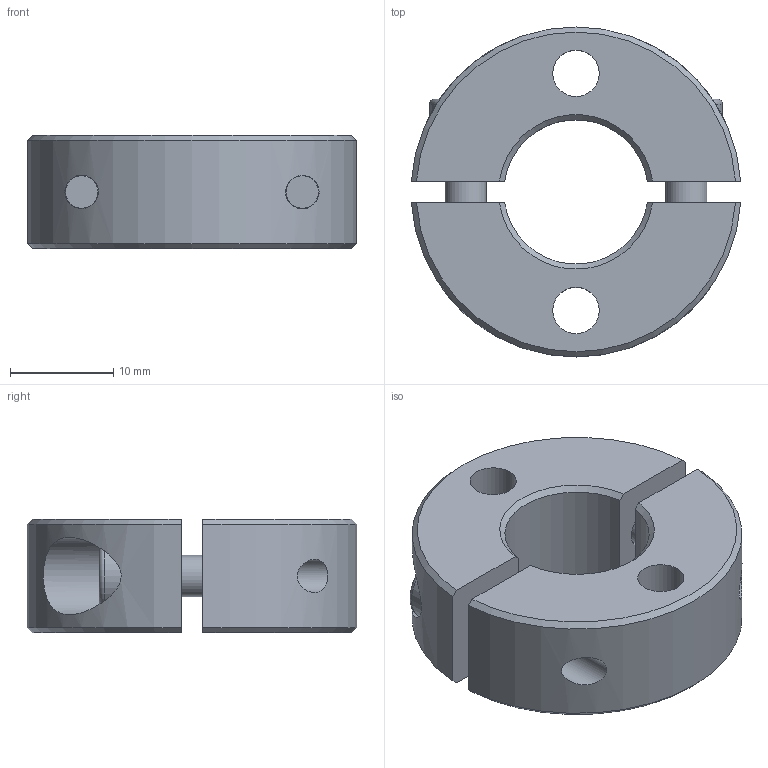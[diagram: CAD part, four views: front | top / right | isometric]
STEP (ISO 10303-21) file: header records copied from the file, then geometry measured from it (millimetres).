
FILE_DESCRIPTION( ( 'STEP AP203' ), '1' );
FILE_NAME( 'C:/Temp/Ganter_Step_05_03_2020/data/3_2/gn7072_2/Split Stainless Steel-Set collar GN 7072.2-32-B14-NI-A.stp', '2020-03-13T05:40:48', ( 'License CC BY-ND 4.0' ), ( 'CADENAS' ), ' ', 'PARTsolutions', ' ' );
FILE_SCHEMA( ( 'CONFIG_CONTROL_DESIGN' ) );
Length unit declared in the file: millimetre
Products named in the file (1): _Split Stainless Steel-Set collar GN 7072.2-32-B14-NI-A
Bounding box: 31.93 x 32 x 11 mm (x, y, z)
Volume: 5956.5 mm3; surface area: 4109 mm2
Topology: 1 solids, 1 shells, 58 faces, 136 edges, 92 vertices
Faces by surface type: plane 30, cylinder 16, cone 10, torus 2
Full cylindrical faces by diameter (mm): 3.242 x2, 4 x2, 4.4 x2, 4.5 x2, 7 x2, 7.5 x2
Entity records: 1836 total; most frequent: CARTESIAN_POINT 555, DIRECTION 250, ORIENTED_EDGE 224, EDGE_CURVE 112, AXIS2_PLACEMENT_3D 99, EDGE_LOOP 92, VERTEX_POINT 84, FACE_OUTER_BOUND 72
